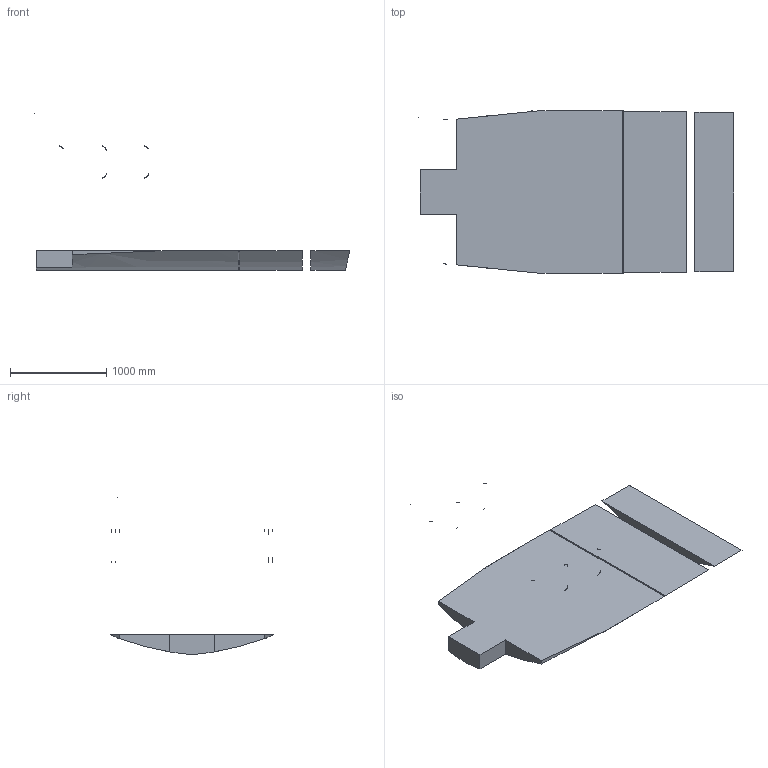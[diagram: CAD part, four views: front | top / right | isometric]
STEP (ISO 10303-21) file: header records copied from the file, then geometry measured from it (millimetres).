
FILE_DESCRIPTION(/* description */ (''),/* implementation_level */ '2;1');
FILE_NAME(/* name */ 'Boat.stp',/* time_stamp */ '2019-09-12T05:34:33+05:00',/* author */ (''),/* organization */ (''),/* preprocessor_version */ 'ST-DEVELOPER v16',/* originating_system */ 'SIEMENS PLM Software NX 10.0',/* authorisation */ '');
FILE_SCHEMA (('CONFIG_CONTROL_DESIGN'));
Length unit declared in the file: millimetre
Products named in the file (1): boat_catpart
Bounding box: 3274.03 x 1689.12 x 1624.56 mm (x, y, z)
Volume: 615742864.2 mm3; surface area: 11091895.4 mm2
Topology: 14 solids, 14 shells, 52 faces, 126 edges, 102 vertices
Faces by surface type: plane 34, bspline 10, extrusion 8
Entity records: 2712 total; most frequent: CARTESIAN_POINT 1587, ORIENTED_EDGE 252, EDGE_CURVE 126, DIRECTION 112, VERTEX_POINT 102, B_SPLINE_CURVE_WITH_KNOTS 100, ADVANCED_FACE 52, FACE_OUTER_BOUND 52
